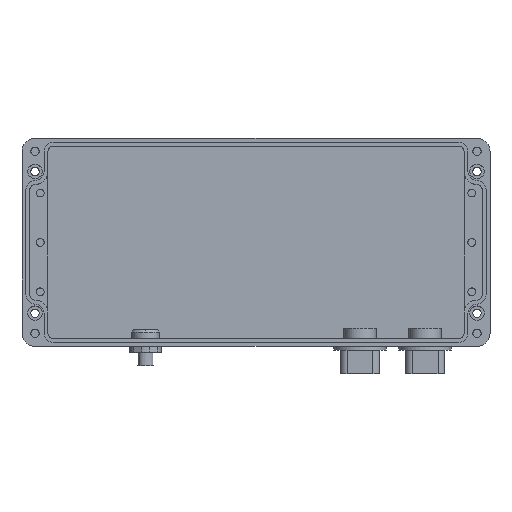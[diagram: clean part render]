
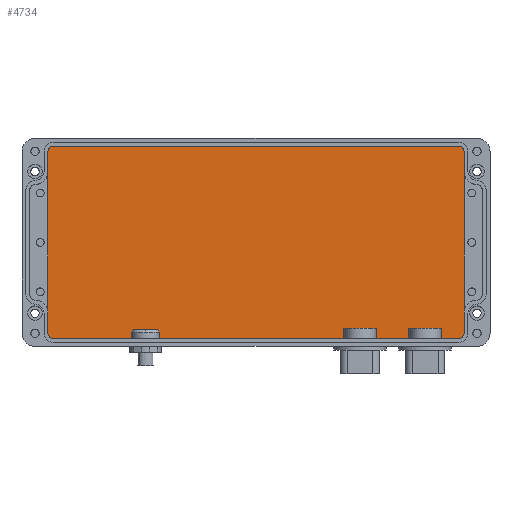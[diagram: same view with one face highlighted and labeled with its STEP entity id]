
A CAD part, top view. The second image highlights one B-rep face of the part: STEP entity #4734.
In plain terms, the highlighted planar face has unit normal (0, 0, 1).
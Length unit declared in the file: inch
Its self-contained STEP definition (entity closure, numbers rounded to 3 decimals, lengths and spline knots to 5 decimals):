
#966=DIRECTION('',(0.,1.,0.));
#967=VECTOR('',#966,5.51181);
#968=CARTESIAN_POINT('',(6.29921,-2.75591,0.23622));
#969=LINE('',#968,#967);
#974=CARTESIAN_POINT('',(-6.14173,2.75591,0.23622));
#975=DIRECTION('',(0.,0.,1.));
#976=DIRECTION('',(0.,1.,0.));
#977=AXIS2_PLACEMENT_3D('',#974,#975,#976);
#979=DIRECTION('',(-1.,0.,0.));
#980=VECTOR('',#979,12.28346);
#981=CARTESIAN_POINT('',(6.14173,2.91339,0.23622));
#982=LINE('',#981,#980);
#983=CARTESIAN_POINT('',(6.14173,2.75591,0.23622));
#984=DIRECTION('',(0.,0.,1.));
#985=DIRECTION('',(1.,0.,0.));
#986=AXIS2_PLACEMENT_3D('',#983,#984,#985);
#988=CARTESIAN_POINT('',(6.14173,-2.75591,0.23622));
#989=DIRECTION('',(0.,0.,1.));
#990=DIRECTION('',(0.,-1.,0.));
#991=AXIS2_PLACEMENT_3D('',#988,#989,#990);
#993=DIRECTION('',(1.,0.,0.));
#994=VECTOR('',#993,12.28346);
#995=CARTESIAN_POINT('',(-6.14173,-2.91339,
0.23622));
#996=LINE('',#995,#994);
#997=CARTESIAN_POINT('',(-6.14173,-2.75591,
0.23622));
#998=DIRECTION('',(0.,0.,1.));
#999=DIRECTION('',(-1.,0.,0.));
#1000=AXIS2_PLACEMENT_3D('',#997,#998,#999);
#1002=DIRECTION('',(0.,-1.,0.));
#1003=VECTOR('',#1002,5.51181);
#1004=CARTESIAN_POINT('',(-6.29921,2.75591,
0.23622));
#1005=LINE('',#1004,#1003);
#2852=CARTESIAN_POINT('',(6.29921,2.75591,0.23622));
#2853=CARTESIAN_POINT('',(6.14173,2.91339,0.23622));
#2854=VERTEX_POINT('',#2852);
#2855=VERTEX_POINT('',#2853);
#2856=CARTESIAN_POINT('',(6.14173,-2.91339,
0.23622));
#2857=CARTESIAN_POINT('',(6.29921,-2.75591,
0.23622));
#2858=VERTEX_POINT('',#2856);
#2859=VERTEX_POINT('',#2857);
#2860=CARTESIAN_POINT('',(-6.29921,-2.75591,
0.23622));
#2861=CARTESIAN_POINT('',(-6.14173,-2.91339,
0.23622));
#2862=VERTEX_POINT('',#2860);
#2863=VERTEX_POINT('',#2861);
#2864=CARTESIAN_POINT('',(-6.14173,2.91339,
0.23622));
#2865=CARTESIAN_POINT('',(-6.29921,2.75591,
0.23622));
#2866=VERTEX_POINT('',#2864);
#2867=VERTEX_POINT('',#2865);
#4712=CARTESIAN_POINT('',(0.,0.,0.23622));
#4713=DIRECTION('',(0.,0.,1.));
#4714=DIRECTION('',(1.,0.,0.));
#4715=AXIS2_PLACEMENT_3D('',#4712,#4713,#4714);
#4716=PLANE('',#4715);
#4718=ORIENTED_EDGE('',*,*,#4717,.F.);
#4720=ORIENTED_EDGE('',*,*,#4719,.F.);
#4722=ORIENTED_EDGE('',*,*,#4721,.F.);
#4724=ORIENTED_EDGE('',*,*,#4723,.F.);
#4725=ORIENTED_EDGE('',*,*,#4695,.F.);
#4727=ORIENTED_EDGE('',*,*,#4726,.F.);
#4729=ORIENTED_EDGE('',*,*,#4728,.F.);
#4731=ORIENTED_EDGE('',*,*,#4730,.F.);
#4732=EDGE_LOOP('',(#4718,#4720,#4722,#4724,#4725,#4727,#4729,#4731));
#4733=FACE_OUTER_BOUND('',#4732,.F.);
#4734=ADVANCED_FACE('',(#4733),#4716,.T.);
#978=CIRCLE('',#977,0.15748);
#987=CIRCLE('',#986,0.15748);
#992=CIRCLE('',#991,0.15748);
#1001=CIRCLE('',#1000,0.15748);
#4695=EDGE_CURVE('',#2859,#2854,#969,.T.);
#4717=EDGE_CURVE('',#2867,#2862,#1005,.T.);
#4719=EDGE_CURVE('',#2866,#2867,#978,.T.);
#4721=EDGE_CURVE('',#2855,#2866,#982,.T.);
#4723=EDGE_CURVE('',#2854,#2855,#987,.T.);
#4726=EDGE_CURVE('',#2858,#2859,#992,.T.);
#4728=EDGE_CURVE('',#2863,#2858,#996,.T.);
#4730=EDGE_CURVE('',#2862,#2863,#1001,.T.);
